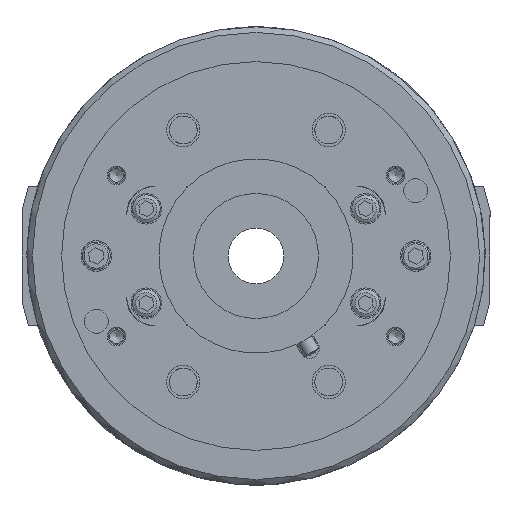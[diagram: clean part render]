
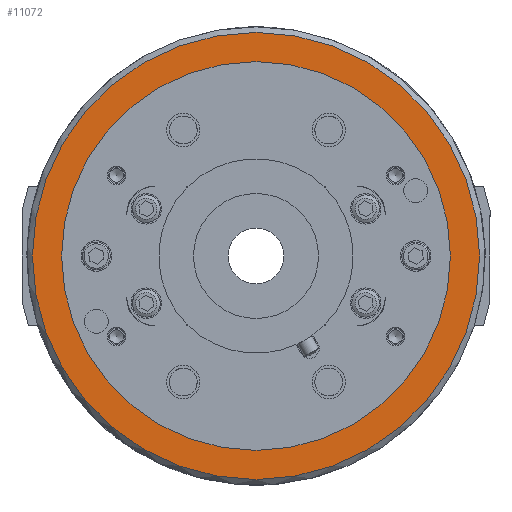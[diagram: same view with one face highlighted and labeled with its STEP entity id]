
A CAD part, left-side view. The second image highlights one B-rep face of the part: STEP entity #11072.
In plain terms, the highlighted planar face has unit normal (-1, 0, 0).
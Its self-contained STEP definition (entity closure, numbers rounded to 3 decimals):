
#3220 = PLANE ( 'NONE',  #22635 ) ;
#3492 = FACE_BOUND ( 'NONE', #13482, .T. ) ;
#3644 = CARTESIAN_POINT ( 'NONE',  ( -87., 0., -82.5 ) ) ;
#3809 = DIRECTION ( 'NONE',  ( -1., 0., 0. ) ) ;
#6550 = FACE_OUTER_BOUND ( 'NONE', #20032, .T. ) ;
#8873 = ORIENTED_EDGE ( 'NONE', *, *, #18264, .T. ) ;
#11072 = ADVANCED_FACE ( 'NONE', ( #3492, #6550 ), #3220, .T. ) ;
#13393 = CIRCLE ( 'NONE', #24484, 70. ) ;
#13482 = EDGE_LOOP ( 'NONE', ( #8873 ) ) ;
#15679 = CARTESIAN_POINT ( 'NONE',  ( -87., 0., 0. ) ) ;
#18264 = EDGE_CURVE ( 'NONE', #41275, #41275, #13393, .T. ) ;
#20032 = EDGE_LOOP ( 'NONE', ( #27620 ) ) ;
#20837 = AXIS2_PLACEMENT_3D ( 'NONE', #32993, #3809, #29560 ) ;
#22635 = AXIS2_PLACEMENT_3D ( 'NONE', #3644, #36011, #26400 ) ;
#24262 = CARTESIAN_POINT ( 'NONE',  ( -87., 0., 80.5 ) ) ;
#24484 = AXIS2_PLACEMENT_3D ( 'NONE', #15679, #28837, #25393 ) ;
#25217 = CIRCLE ( 'NONE', #20837, 80.5 ) ;
#25393 = DIRECTION ( 'NONE',  ( 0., 0., -1. ) ) ;
#26400 = DIRECTION ( 'NONE',  ( 0., 0., 1. ) ) ;
#27620 = ORIENTED_EDGE ( 'NONE', *, *, #35557, .T. ) ;
#28837 = DIRECTION ( 'NONE',  ( 1., 0., 0. ) ) ;
#29560 = DIRECTION ( 'NONE',  ( 0., 0., 1. ) ) ;
#32993 = CARTESIAN_POINT ( 'NONE',  ( -87., 0., 0. ) ) ;
#33308 = CARTESIAN_POINT ( 'NONE',  ( -87., 0., -70. ) ) ;
#35557 = EDGE_CURVE ( 'NONE', #40144, #40144, #25217, .T. ) ;
#36011 = DIRECTION ( 'NONE',  ( -1., 0., 0. ) ) ;
#40144 = VERTEX_POINT ( 'NONE', #24262 ) ;
#41275 = VERTEX_POINT ( 'NONE', #33308 ) ;
